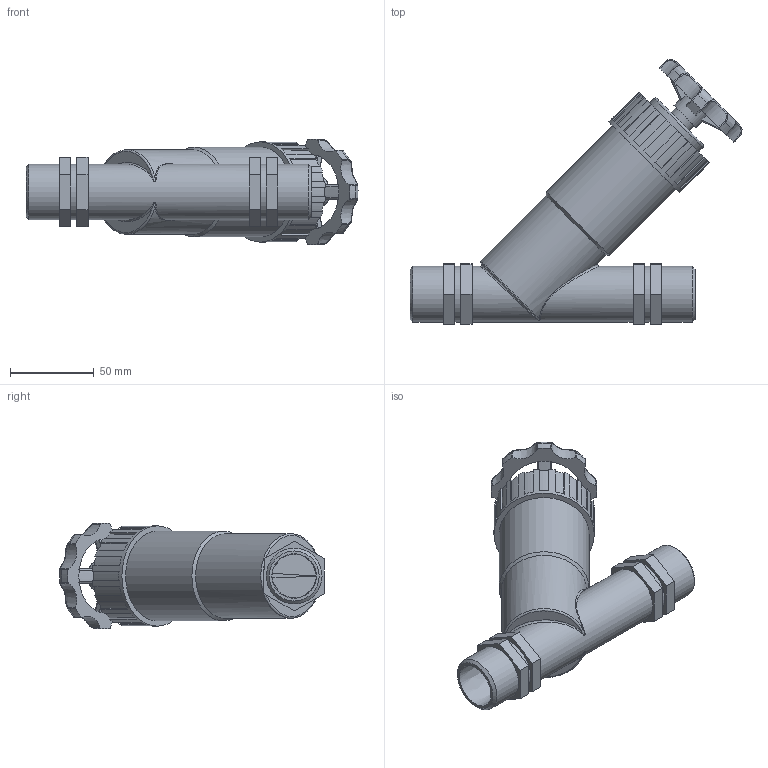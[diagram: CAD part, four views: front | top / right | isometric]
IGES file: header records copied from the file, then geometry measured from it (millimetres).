
Global section: file name: 03047110_030471100A_03049110.ipt; native system: Autodesk Inventor 2015; preprocessor: unknown; author: KIM; date: 20170619.121319; units: millimetre
Bounding box: 197.99 x 157.92 x 62.97 mm (x, y, z)
Volume: 363996.4 mm3; surface area: 67106.3 mm2
Topology: 1 solids, 2 shells, 223 faces, 600 edges, 388 vertices
Faces by surface type: plane 110, cylinder 56, bspline 28, revolution 22, cone 7
Full cylindrical faces by diameter (mm): 15.12 x1, 18.9 x1, 33.249 x5, 41.58 x1, 50.4 x1, 53.55 x1, 59.85 x1
